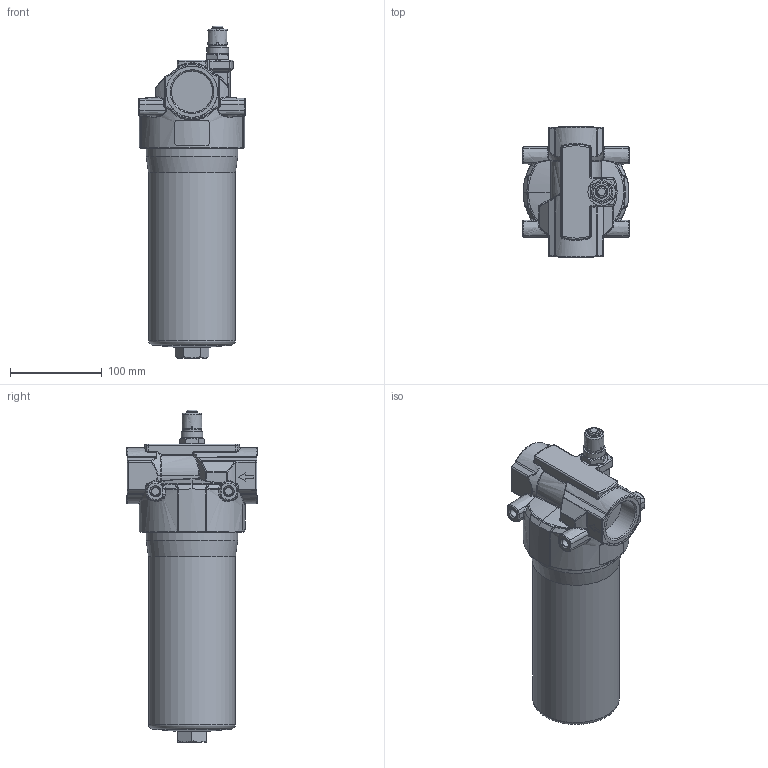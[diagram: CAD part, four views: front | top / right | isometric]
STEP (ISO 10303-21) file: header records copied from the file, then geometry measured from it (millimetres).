
FILE_DESCRIPTION((''),'2;1');
FILE_NAME('U:\Users\i.maeder\34422400_D232-286OD1.stp', '2016-10-25T08:19:20',('User'),('SDRC'),'I-DEAS Master Series 9','UNIX', 'Yes');
FILE_SCHEMA(('AUTOMOTIVE_DESIGN { 1 0 10303 214 1 1 1 1 }'));
Length unit declared in the file: millimetre
Products named in the file (1): 34422400
Bounding box: 116 x 143 x 362.8 mm (x, y, z)
Volume: 2441755 mm3; surface area: 139292.5 mm2
Topology: 1 solids, 3 shells, 666 faces, 1591 edges, 920 vertices
Faces by surface type: bspline 666
Entity records: 25478 total; most frequent: CARTESIAN_POINT 16588, ORIENTED_EDGE 3128, EDGE_CURVE 1564, B_SPLINE_CURVE_WITH_KNOTS 961, VERTEX_POINT 920, EDGE_LOOP 682, FACE_OUTER_BOUND 666, ADVANCED_FACE 666
